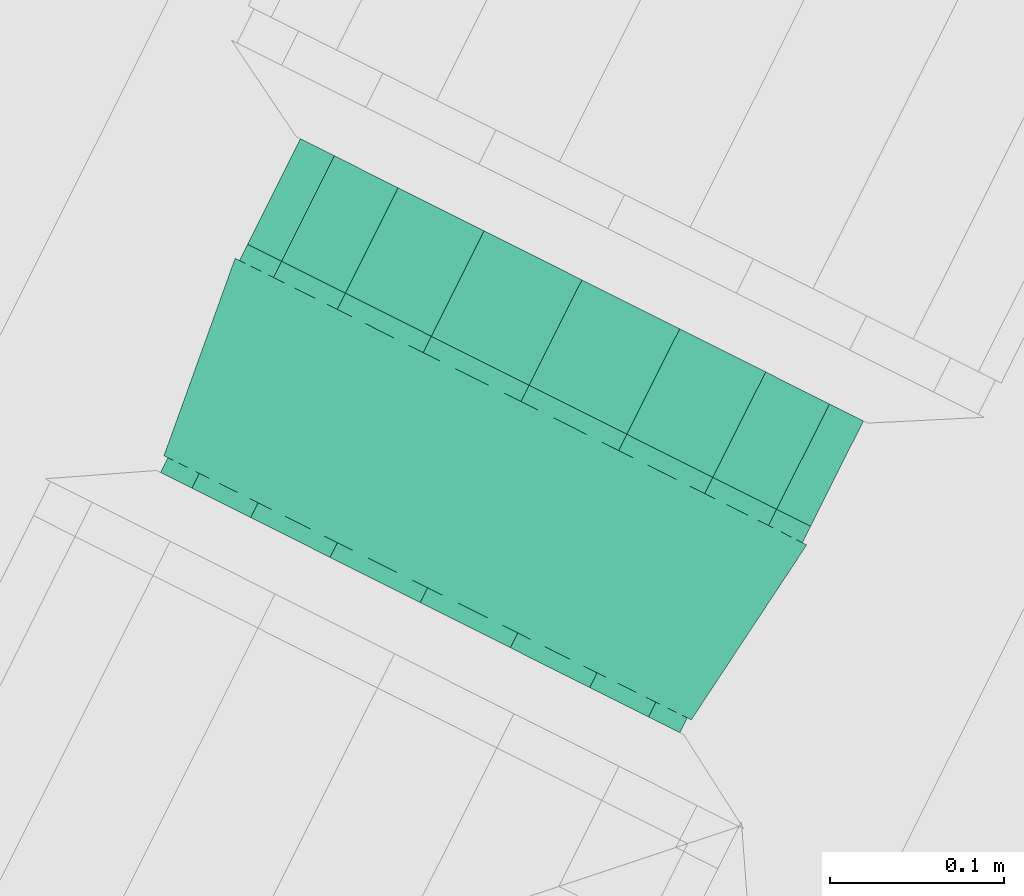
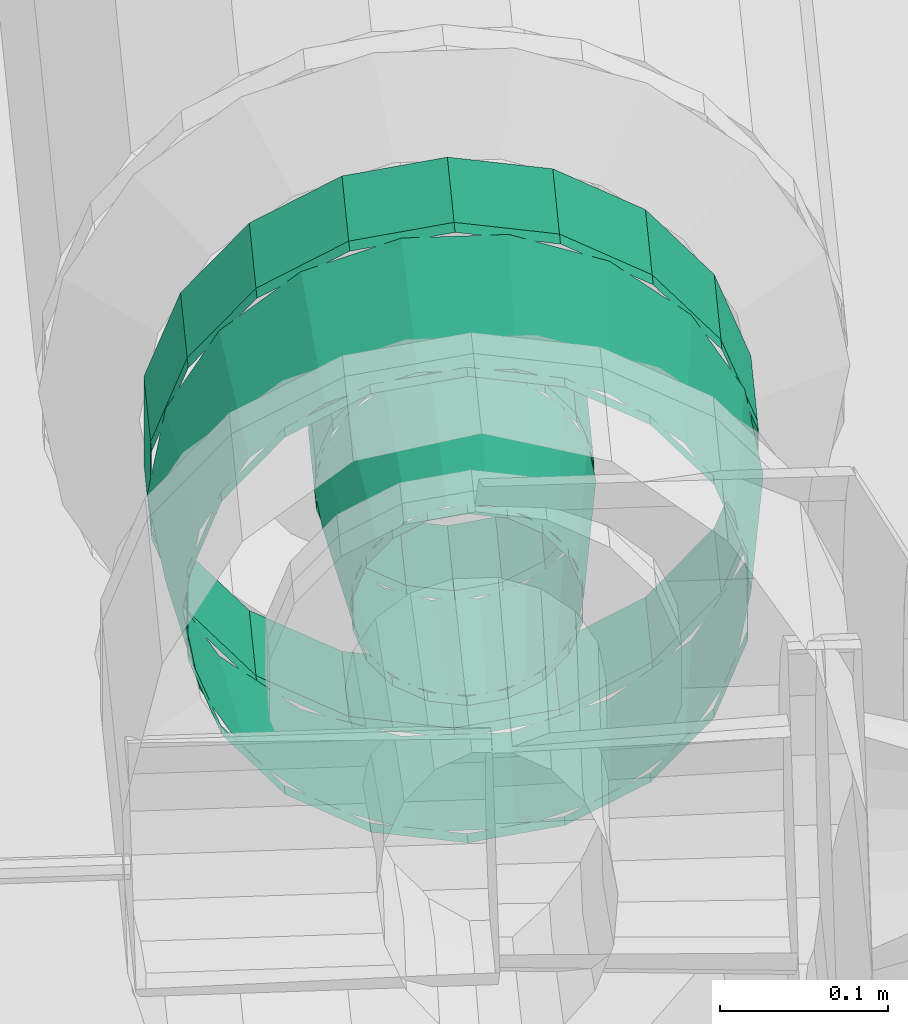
# One storey, part 116 of 206: 1 flow fitting, 1 flow segment.
"""IFC2X3 building model written with IfcOpenShell, lengths in metres."""

from ifc_helpers import new_model, si_unit, derived_unit, direction, frame, origin, place, context, subcontext, project, spatial, face_set, surface_model, source, transform, mapped, material, type_object, type_shapes, element, save


model = new_model("IFC2X3")

# Units and contexts
model_context = context("Model", 3, precision=5.2338327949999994e-05, world=origin(), true_north=direction((0.0, 1.0)))
body_context = subcontext(model_context, "Body", "Model", "MODEL_VIEW")
ifc_project = project(units=[si_unit("LENGTHUNIT", "METRE"), si_unit("AREAUNIT", "SQUARE_METRE"), si_unit("VOLUMEUNIT", "CUBIC_METRE"), si_unit("MASSUNIT", "GRAM", prefix="KILO"), si_unit("PLANEANGLEUNIT", "RADIAN"), derived_unit("THERMALTRANSMITTANCEUNIT", [(si_unit("MASSUNIT", "GRAM", prefix="KILO"), 1), (si_unit("THERMODYNAMICTEMPERATUREUNIT", "KELVIN"), -1), (si_unit("TIMEUNIT", "SECOND"), -3)])], contexts=[model_context])

# Site, building, storey
site_placement = place(None, frame((0.0, 0.0, 0.0), z_axis=(0.0, 0.0, 1.0), x_axis=(0.8939966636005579, -0.4480736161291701, 0.0)))
site = spatial("IfcSite", under=ifc_project, at=site_placement, Name="Default", CompositionType="ELEMENT")
building_placement = place(site_placement, origin())
building = spatial("IfcBuilding", under=site, at=building_placement, CompositionType="ELEMENT")
storey_placement = place(building_placement, origin())
storey = spatial("IfcBuildingStorey", under=building, at=storey_placement, Name="Erdgeschoss", CompositionType="ELEMENT", Elevation=0.0)

# Flow fitting
ifc_material = material(Name="IfcSurfaceStyle #1741")
distribution_element_type_1 = type_object("IfcDistributionElementType", Name="Übergangsstück 320178:Übergangsstück 320178", material=ifc_material)
shared_shape_1 = source(origin(), body_context, "Body", "SurfaceModel", [
    surface_model("IfcFaceBasedSurfaceModel", [(23.08485389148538, 6.913961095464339, 2.28415), (23.060963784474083, 6.913961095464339, 2.2883624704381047), (23.060963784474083, 6.92349026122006, 2.2883624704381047), (23.08485389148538, 6.92349026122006, 2.28415), (23.039955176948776, 6.913961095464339, 2.3004917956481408), (23.039955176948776, 6.92349026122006, 2.3004917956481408), (23.024362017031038, 6.913961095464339, 2.3190750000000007), (23.024362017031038, 6.92349026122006, 2.3190750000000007), (23.016065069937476, 6.913961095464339, 2.3418706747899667), (23.016065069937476, 6.92349026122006, 2.3418706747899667), (23.016065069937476, 6.913961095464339, 2.366129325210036), (23.016065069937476, 6.92349026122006, 2.366129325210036), (23.024362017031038, 6.913961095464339, 2.388925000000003), (23.024362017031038, 6.92349026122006, 2.388925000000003), (23.039955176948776, 6.913961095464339, 2.407508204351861), (23.039955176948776, 6.92349026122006, 2.407508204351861), (23.060963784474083, 6.913961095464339, 2.419637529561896), (23.060963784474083, 6.92349026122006, 2.419637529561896), (23.084853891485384, 6.913961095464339, 2.4238500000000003), (23.084853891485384, 6.92349026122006, 2.4238500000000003), (23.10874399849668, 6.913961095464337, 2.419637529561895), (23.10874399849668, 6.92349026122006, 2.4196375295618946), (23.129752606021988, 6.913961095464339, 2.407508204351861), (23.129752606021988, 6.92349026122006, 2.4075082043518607), (23.145345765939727, 6.913961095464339, 2.3889249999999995), (23.145345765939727, 6.92349026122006, 2.3889249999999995), (23.153642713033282, 6.913961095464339, 2.366129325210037), (23.153642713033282, 6.92349026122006, 2.366129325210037), (23.153642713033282, 6.913961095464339, 2.3418706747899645), (23.153642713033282, 6.92349026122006, 2.3418706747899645), (23.145345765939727, 6.913961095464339, 2.319074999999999), (23.145345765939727, 6.92349026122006, 2.319074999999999), (23.129752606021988, 6.913961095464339, 2.3004917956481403), (23.129752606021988, 6.92349026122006, 2.3004917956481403), (23.10874399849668, 6.913961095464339, 2.2883624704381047), (23.10874399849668, 6.92349026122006, 2.2883624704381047), (23.01500389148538, 6.92349026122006, 2.3539999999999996), (23.01921636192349, 6.92349026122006, 2.377890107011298), (23.005778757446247, 7.043501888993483, 2.3827809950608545), (23.000703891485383, 7.043501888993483, 2.354000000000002), (23.031345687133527, 6.92349026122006, 2.398898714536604), (23.02039125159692, 7.043501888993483, 2.408090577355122), (23.049928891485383, 6.92349026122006, 2.414491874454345), (23.04277889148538, 7.043501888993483, 2.4268760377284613), (23.072724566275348, 6.92349026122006, 2.422788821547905), (23.07024139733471, 7.043501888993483, 2.4368715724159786), (23.096983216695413, 6.92349026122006, 2.422788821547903), (23.099466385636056, 7.043501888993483, 2.4368715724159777), (23.119778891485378, 6.92349026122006, 2.414491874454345), (23.12692889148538, 7.043501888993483, 2.4268760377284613), (23.138362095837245, 6.92349026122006, 2.3988987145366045), (23.149316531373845, 7.043501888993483, 2.4080905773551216), (23.150491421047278, 6.92349026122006, 2.3778901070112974), (23.16392902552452, 7.043501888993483, 2.382780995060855), (23.154703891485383, 6.92349026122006, 2.353999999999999), (23.16900389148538, 7.043501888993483, 2.3539999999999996), (23.150491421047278, 6.92349026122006, 2.330109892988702), (23.163929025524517, 7.043501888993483, 2.3252190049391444), (23.138362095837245, 6.92349026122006, 2.309101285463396), (23.149316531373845, 7.043501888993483, 2.299909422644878), (23.119778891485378, 6.92349026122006, 2.2935081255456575), (23.126928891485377, 7.043501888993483, 2.2811239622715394), (23.096983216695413, 6.92349026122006, 2.2852111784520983), (23.09946638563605, 7.043501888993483, 2.2711284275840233), (23.072724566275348, 6.92349026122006, 2.285211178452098), (23.07024139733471, 7.043501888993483, 2.271128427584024), (23.049928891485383, 6.92349026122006, 2.2935081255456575), (23.04277889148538, 7.043501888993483, 2.2811239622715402), (23.03134568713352, 6.92349026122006, 2.309101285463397), (23.020391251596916, 7.043501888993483, 2.2999094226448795), (23.019216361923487, 6.92349026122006, 2.3301098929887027), (23.005778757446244, 7.043501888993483, 2.325219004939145), (23.08485389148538, 7.043501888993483, 2.2698500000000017), (23.05607289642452, 7.043501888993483, 2.274924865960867), (23.05607289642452, 7.053961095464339, 2.274924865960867), (23.08485389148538, 7.053961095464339, 2.2698500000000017), (23.030763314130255, 7.043501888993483, 2.28953736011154), (23.030763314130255, 7.053961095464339, 2.28953736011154), (23.011977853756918, 7.043501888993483, 2.311925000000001), (23.011977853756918, 7.053961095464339, 2.311925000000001), (23.001982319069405, 7.043501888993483, 2.339387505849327), (23.001982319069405, 7.053961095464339, 2.339387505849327), (23.001982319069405, 7.043501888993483, 2.3686124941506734), (23.001982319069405, 7.053961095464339, 2.3686124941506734), (23.011977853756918, 7.043501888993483, 2.396075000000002), (23.011977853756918, 7.053961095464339, 2.396075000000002), (23.030763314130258, 7.043501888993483, 2.4184626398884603), (23.030763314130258, 7.053961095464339, 2.4184626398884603), (23.056072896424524, 7.043501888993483, 2.433075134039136), (23.056072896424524, 7.053961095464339, 2.433075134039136), (23.084853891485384, 7.043501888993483, 2.4381500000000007), (23.084853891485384, 7.053961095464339, 2.4381500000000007), (23.11363488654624, 7.043501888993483, 2.4330751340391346), (23.11363488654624, 7.053961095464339, 2.4330751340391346), (23.1389444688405, 7.043501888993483, 2.4184626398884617), (23.1389444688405, 7.053961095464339, 2.4184626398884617), (23.15772992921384, 7.043501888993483, 2.396074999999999), (23.15772992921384, 7.053961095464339, 2.396074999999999), (23.16772546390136, 7.043501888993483, 2.3686124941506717), (23.16772546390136, 7.053961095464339, 2.3686124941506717), (23.16772546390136, 7.043501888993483, 2.339387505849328), (23.16772546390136, 7.053961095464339, 2.339387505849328), (23.15772992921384, 7.043501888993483, 2.311924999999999), (23.15772992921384, 7.053961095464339, 2.311924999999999), (23.1389444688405, 7.043501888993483, 2.289537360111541), (23.1389444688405, 7.053961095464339, 2.289537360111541), (23.11363488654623, 7.043501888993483, 2.274924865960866), (23.11363488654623, 7.053961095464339, 2.274924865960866), (23.08485389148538, 6.913961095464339, 2.1841499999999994), (23.026761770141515, 6.913961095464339, 2.194393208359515), (23.026761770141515, 6.92349026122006, 2.194393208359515), (23.08485389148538, 6.92349026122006, 2.1841499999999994), (22.97567641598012, 6.913961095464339, 2.223887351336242), (22.97567641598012, 6.92349026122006, 2.223887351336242), (22.937759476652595, 6.913961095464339, 2.2690750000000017), (22.937759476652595, 6.92349026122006, 2.2690750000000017), (22.917584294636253, 6.913961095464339, 2.324505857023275), (22.917584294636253, 6.92349026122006, 2.324505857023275), (22.917584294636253, 6.913961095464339, 2.3834941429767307), (22.917584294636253, 6.92349026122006, 2.3834941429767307), (22.937759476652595, 6.913961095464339, 2.4389250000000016), (22.937759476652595, 6.92349026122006, 2.4389250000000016), (22.97567641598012, 6.913961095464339, 2.4841126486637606), (22.97567641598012, 6.92349026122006, 2.4841126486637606), (23.026761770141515, 6.913961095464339, 2.5136067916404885), (23.026761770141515, 6.92349026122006, 2.5136067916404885), (23.084853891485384, 6.913961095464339, 2.523850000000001), (23.084853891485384, 6.92349026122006, 2.523850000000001), (23.14294601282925, 6.913961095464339, 2.513606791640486), (23.14294601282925, 6.92349026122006, 2.513606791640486), (23.194031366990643, 6.913961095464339, 2.484112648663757), (23.194031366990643, 6.92349026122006, 2.484112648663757), (23.231948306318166, 6.913961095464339, 2.4389250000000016), (23.231948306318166, 6.92349026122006, 2.4389250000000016), (23.2521234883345, 6.913961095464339, 2.383494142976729), (23.2521234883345, 6.92349026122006, 2.383494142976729), (23.2521234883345, 6.913961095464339, 2.3245058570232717), (23.2521234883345, 6.92349026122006, 2.3245058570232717), (23.231948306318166, 6.913961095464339, 2.269074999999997), (23.231948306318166, 6.92349026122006, 2.269074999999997), (23.19403136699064, 6.913961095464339, 2.223887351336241), (23.19403136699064, 6.92349026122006, 2.223887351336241), (23.142946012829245, 6.913961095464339, 2.194393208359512), (23.142946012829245, 6.92349026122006, 2.194393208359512), (22.915003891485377, 6.92349026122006, 2.3540000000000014), (22.925247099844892, 6.92349026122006, 2.412092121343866), (22.911809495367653, 7.043501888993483, 2.416983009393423), (22.900703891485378, 7.043501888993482, 2.354000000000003), (22.954741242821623, 6.92349026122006, 2.4631774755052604), (22.943786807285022, 7.043501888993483, 2.4723693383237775), (22.99992889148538, 6.92349026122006, 2.5010944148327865), (22.992778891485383, 7.043501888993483, 2.513478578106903), (23.055359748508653, 6.92349026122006, 2.521269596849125), (23.052876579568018, 7.043501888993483, 2.5353523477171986), (23.11434803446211, 6.92349026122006, 2.5212695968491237), (23.11683120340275, 7.043501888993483, 2.5353523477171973), (23.16977889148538, 6.92349026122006, 2.5010944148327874), (23.176928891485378, 7.043501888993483, 2.5134785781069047), (23.21496654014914, 6.92349026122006, 2.4631774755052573), (23.225920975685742, 7.043501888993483, 2.4723693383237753), (23.244460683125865, 6.92349026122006, 2.4120921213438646), (23.25789828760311, 7.043501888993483, 2.4169830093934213), (23.254703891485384, 6.92349026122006, 2.3539999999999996), (23.269003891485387, 7.043501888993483, 2.3539999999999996), (23.24446068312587, 6.92349026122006, 2.295907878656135), (23.25789828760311, 7.043501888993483, 2.291016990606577), (23.21496654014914, 6.92349026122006, 2.2448225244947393), (23.22592097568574, 7.043501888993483, 2.235630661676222), (23.16977889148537, 6.92349026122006, 2.2069055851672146), (23.176928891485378, 7.043501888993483, 2.194521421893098), (23.114348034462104, 6.92349026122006, 2.1867304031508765), (23.116831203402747, 7.043501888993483, 2.172647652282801), (23.05535974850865, 6.92349026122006, 2.186730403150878), (23.052876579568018, 7.043501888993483, 2.1726476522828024), (22.99992889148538, 6.92349026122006, 2.2069055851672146), (22.992778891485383, 7.043501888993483, 2.1945214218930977), (22.954741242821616, 6.92349026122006, 2.24482252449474), (22.94378680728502, 7.043501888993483, 2.235630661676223), (22.925247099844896, 6.92349026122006, 2.2959078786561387), (22.911809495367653, 7.043501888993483, 2.291016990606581), (23.084853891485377, 7.043501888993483, 2.1698500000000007), (23.021870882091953, 7.043501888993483, 2.1809556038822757), (23.021870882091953, 7.053961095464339, 2.1809556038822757), (23.084853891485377, 7.053961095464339, 2.1698500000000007), (22.966484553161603, 7.043501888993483, 2.2129329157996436), (22.966484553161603, 7.053961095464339, 2.2129329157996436), (22.925375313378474, 7.043501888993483, 2.2619250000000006), (22.925375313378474, 7.053961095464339, 2.2619250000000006), (22.903501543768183, 7.043501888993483, 2.322022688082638), (22.903501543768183, 7.053961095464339, 2.322022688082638), (22.903501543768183, 7.043501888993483, 2.3859773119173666), (22.903501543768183, 7.053961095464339, 2.3859773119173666), (22.925375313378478, 7.043501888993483, 2.446075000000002), (22.925375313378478, 7.053961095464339, 2.446075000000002), (22.9664845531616, 7.043501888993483, 2.495067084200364), (22.9664845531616, 7.053961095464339, 2.495067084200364), (23.021870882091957, 7.043501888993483, 2.527044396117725), (23.021870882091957, 7.053961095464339, 2.527044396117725), (23.084853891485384, 7.043501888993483, 2.5381499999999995), (23.084853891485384, 7.053961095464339, 2.5381499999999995), (23.147836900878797, 7.043501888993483, 2.527044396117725), (23.147836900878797, 7.053961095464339, 2.527044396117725), (23.20322322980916, 7.043501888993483, 2.4950670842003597), (23.20322322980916, 7.053961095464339, 2.4950670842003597), (23.244332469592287, 7.043501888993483, 2.446074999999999), (23.244332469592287, 7.053961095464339, 2.446074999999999), (23.266206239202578, 7.043501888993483, 2.3859773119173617), (23.266206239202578, 7.053961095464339, 2.3859773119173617), (23.266206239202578, 7.043501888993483, 2.3220226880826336), (23.266206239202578, 7.053961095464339, 2.3220226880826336), (23.244332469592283, 7.043501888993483, 2.2619249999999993), (23.244332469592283, 7.053961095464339, 2.2619249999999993), (23.20322322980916, 7.043501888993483, 2.2129329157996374), (23.20322322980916, 7.053961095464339, 2.2129329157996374), (23.147836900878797, 7.043501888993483, 2.1809556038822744), (23.147836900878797, 7.053961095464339, 2.1809556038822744)], [face_set([[[0, 1, 2, 3]], [[1, 4, 5, 2]], [[4, 6, 7, 5]], [[6, 8, 9, 7]], [[8, 10, 11, 9]], [[10, 12, 13, 11]], [[12, 14, 15, 13]], [[14, 16, 17, 15]], [[16, 18, 19, 17]], [[18, 20, 21, 19]], [[20, 22, 23, 21]], [[22, 24, 25, 23]], [[24, 26, 27, 25]], [[26, 28, 29, 27]], [[28, 30, 31, 29]], [[30, 32, 33, 31]], [[32, 34, 35, 33]], [[34, 0, 3, 35]], [[36, 37, 38, 39]], [[37, 40, 41, 38]], [[40, 42, 43, 41]], [[42, 44, 45, 43]], [[44, 46, 47, 45]], [[46, 48, 49, 47]], [[48, 50, 51, 49]], [[50, 52, 53, 51]], [[52, 54, 55, 53]], [[54, 56, 57, 55]], [[56, 58, 59, 57]], [[58, 60, 61, 59]], [[60, 62, 63, 61]], [[62, 64, 65, 63]], [[64, 66, 67, 65]], [[66, 68, 69, 67]], [[68, 70, 71, 69]], [[70, 36, 39, 71]], [[72, 73, 74, 75]], [[73, 76, 77, 74]], [[76, 78, 79, 77]], [[78, 80, 81, 79]], [[80, 82, 83, 81]], [[82, 84, 85, 83]], [[84, 86, 87, 85]], [[86, 88, 89, 87]], [[88, 90, 91, 89]], [[90, 92, 93, 91]], [[92, 94, 95, 93]], [[94, 96, 97, 95]], [[96, 98, 99, 97]], [[98, 100, 101, 99]], [[100, 102, 103, 101]], [[102, 104, 105, 103]], [[104, 106, 107, 105]], [[106, 72, 75, 107]], [[108, 109, 110, 111]], [[109, 112, 113, 110]], [[112, 114, 115, 113]], [[114, 116, 117, 115]], [[116, 118, 119, 117]], [[118, 120, 121, 119]], [[120, 122, 123, 121]], [[122, 124, 125, 123]], [[124, 126, 127, 125]], [[126, 128, 129, 127]], [[128, 130, 131, 129]], [[130, 132, 133, 131]], [[132, 134, 135, 133]], [[134, 136, 137, 135]], [[136, 138, 139, 137]], [[138, 140, 141, 139]], [[140, 142, 143, 141]], [[142, 108, 111, 143]], [[144, 145, 146, 147]], [[145, 148, 149, 146]], [[148, 150, 151, 149]], [[150, 152, 153, 151]], [[152, 154, 155, 153]], [[154, 156, 157, 155]], [[156, 158, 159, 157]], [[158, 160, 161, 159]], [[160, 162, 163, 161]], [[162, 164, 165, 163]], [[164, 166, 167, 165]], [[166, 168, 169, 167]], [[168, 170, 171, 169]], [[170, 172, 173, 171]], [[172, 174, 175, 173]], [[174, 176, 177, 175]], [[176, 178, 179, 177]], [[178, 144, 147, 179]], [[180, 181, 182, 183]], [[181, 184, 185, 182]], [[184, 186, 187, 185]], [[186, 188, 189, 187]], [[188, 190, 191, 189]], [[190, 192, 193, 191]], [[192, 194, 195, 193]], [[194, 196, 197, 195]], [[196, 198, 199, 197]], [[198, 200, 201, 199]], [[200, 202, 203, 201]], [[202, 204, 205, 203]], [[204, 206, 207, 205]], [[206, 208, 209, 207]], [[208, 210, 211, 209]], [[210, 212, 213, 211]], [[212, 214, 215, 213]], [[214, 180, 183, 215]]])]),
])
type_shapes(distribution_element_type_1, [shared_shape_1])
flow_fitting_placement = place(storey_placement, origin())
element("IfcFlowFitting", 1, at=flow_fitting_placement, inside=storey, type_object=distribution_element_type_1, material=ifc_material, Name="Übergangsstück", ObjectType="Übergangsstück", context=body_context, shape_type="MappedRepresentation", body=[
    mapped(shared_shape_1, transform((0.0, 0.0, 0.0), scale=1.0)),
])

# Flow segment
distribution_element_type_2 = type_object("IfcDistributionElementType", Name="Stahlrohr nach DIN 2448 320201:Stahlrohr nach DIN 2448 320201", material=ifc_material)
shared_shape_2 = source(origin(), body_context, "Body", "SurfaceModel", [
    surface_model("IfcFaceBasedSurfaceModel", [(23.08485389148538, 7.053961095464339, 2.438149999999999), (23.113634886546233, 7.053961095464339, 2.4330751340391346), (23.11363488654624, 7.12189267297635, 2.433075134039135), (23.084853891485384, 7.12189267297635, 2.43815), (23.1389444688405, 7.053961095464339, 2.4184626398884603), (23.13894446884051, 7.12189267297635, 2.418462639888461), (23.157729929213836, 7.053961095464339, 2.396075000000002), (23.15772992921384, 7.12189267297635, 2.396075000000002), (23.167725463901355, 7.053961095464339, 2.36861249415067), (23.167725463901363, 7.12189267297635, 2.368612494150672), (23.167725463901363, 7.053961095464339, 2.339387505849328), (23.167725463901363, 7.12189267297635, 2.339387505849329), (23.157729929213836, 7.053961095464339, 2.311925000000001), (23.15772992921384, 7.12189267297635, 2.3119250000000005), (23.1389444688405, 7.053961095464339, 2.28953736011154), (23.13894446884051, 7.12189267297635, 2.289537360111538), (23.113634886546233, 7.053961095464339, 2.274924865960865), (23.11363488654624, 7.12189267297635, 2.2749248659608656), (23.08485389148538, 7.0539610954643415, 2.26985), (23.084853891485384, 7.12189267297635, 2.2698500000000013), (23.05607289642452, 7.053961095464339, 2.274924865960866), (23.05607289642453, 7.12189267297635, 2.2749248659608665), (23.030763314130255, 7.053961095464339, 2.2895373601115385), (23.030763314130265, 7.12189267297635, 2.289537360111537), (23.011977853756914, 7.053961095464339, 2.3119249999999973), (23.011977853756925, 7.12189267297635, 2.3119249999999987), (23.001982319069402, 7.053961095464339, 2.339387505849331), (23.001982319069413, 7.12189267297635, 2.3393875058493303), (23.00198231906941, 7.053961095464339, 2.3686124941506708), (23.001982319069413, 7.12189267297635, 2.368612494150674), (23.011977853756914, 7.053961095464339, 2.396075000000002), (23.011977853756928, 7.12189267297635, 2.396075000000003), (23.030763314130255, 7.053961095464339, 2.4184626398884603), (23.030763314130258, 7.12189267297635, 2.418462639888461), (23.056072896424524, 7.053961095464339, 2.433075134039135), (23.056072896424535, 7.12189267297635, 2.4330751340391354), (23.084853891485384, 7.053961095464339, 2.5381500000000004), (23.147836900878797, 7.053961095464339, 2.5270443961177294), (23.147836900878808, 7.12189267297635, 2.5270443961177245), (23.084853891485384, 7.12189267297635, 2.538149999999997), (23.203223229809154, 7.053961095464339, 2.495067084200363), (23.203223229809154, 7.12189267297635, 2.495067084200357), (23.244332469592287, 7.053961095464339, 2.446074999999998), (23.24433246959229, 7.12189267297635, 2.446074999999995), (23.266206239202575, 7.053961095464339, 2.385977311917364), (23.266206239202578, 7.12189267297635, 2.3859773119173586), (23.266206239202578, 7.053961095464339, 2.3220226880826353), (23.266206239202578, 7.12189267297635, 2.32202268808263), (23.244332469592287, 7.053961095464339, 2.2619249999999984), (23.244332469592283, 7.12189267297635, 2.2619249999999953), (23.203223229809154, 7.053961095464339, 2.21293291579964), (23.20322322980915, 7.12189267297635, 2.2129329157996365), (23.147836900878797, 7.053961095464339, 2.1809556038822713), (23.147836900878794, 7.12189267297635, 2.1809556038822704), (23.08485389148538, 7.053961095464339, 2.1698499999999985), (23.084853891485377, 7.12189267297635, 2.1698499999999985), (23.021870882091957, 7.053961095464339, 2.1809556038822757), (23.021870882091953, 7.12189267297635, 2.1809556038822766), (22.9664845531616, 7.053961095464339, 2.2129329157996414), (22.9664845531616, 7.12189267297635, 2.2129329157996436), (22.925375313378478, 7.053961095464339, 2.2619249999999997), (22.925375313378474, 7.12189267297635, 2.2619250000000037), (22.903501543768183, 7.053961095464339, 2.3220226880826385), (22.903501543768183, 7.12189267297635, 2.322022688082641), (22.903501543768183, 7.053961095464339, 2.385977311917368), (22.903501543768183, 7.12189267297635, 2.3859773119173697), (22.925375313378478, 7.053961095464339, 2.446075), (22.925375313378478, 7.12189267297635, 2.446075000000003), (22.966484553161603, 7.053961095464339, 2.495067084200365), (22.966484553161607, 7.12189267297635, 2.4950670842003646), (23.021870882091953, 7.053961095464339, 2.527044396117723), (23.021870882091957, 7.12189267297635, 2.527044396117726)], [face_set([[[0, 1, 2, 3]], [[1, 4, 5, 2]], [[4, 6, 7, 5]], [[6, 8, 9, 7]], [[8, 10, 11, 9]], [[10, 12, 13, 11]], [[12, 14, 15, 13]], [[14, 16, 17, 15]], [[16, 18, 19, 17]], [[18, 20, 21, 19]], [[20, 22, 23, 21]], [[22, 24, 25, 23]], [[24, 26, 27, 25]], [[26, 28, 29, 27]], [[28, 30, 31, 29]], [[30, 32, 33, 31]], [[32, 34, 35, 33]], [[34, 0, 3, 35]], [[36, 37, 38, 39]], [[37, 40, 41, 38]], [[40, 42, 43, 41]], [[42, 44, 45, 43]], [[44, 46, 47, 45]], [[46, 48, 49, 47]], [[48, 50, 51, 49]], [[50, 52, 53, 51]], [[52, 54, 55, 53]], [[54, 56, 57, 55]], [[56, 58, 59, 57]], [[58, 60, 61, 59]], [[60, 62, 63, 61]], [[62, 64, 65, 63]], [[64, 66, 67, 65]], [[66, 68, 69, 67]], [[68, 70, 71, 69]], [[70, 36, 39, 71]]])]),
])
type_shapes(distribution_element_type_2, [shared_shape_2])
flow_segment_placement = place(storey_placement, origin())
element("IfcFlowSegment", 2, at=flow_segment_placement, inside=storey, type_object=distribution_element_type_2, material=ifc_material, Name="Stahlrohr nach DIN 2448", ObjectType="Stahlrohr nach DIN 2448", context=body_context, shape_type="MappedRepresentation", body=[
    mapped(shared_shape_2, transform((0.0, 0.0, 0.0), scale=1.0)),
])

save(model, "model.ifc")
